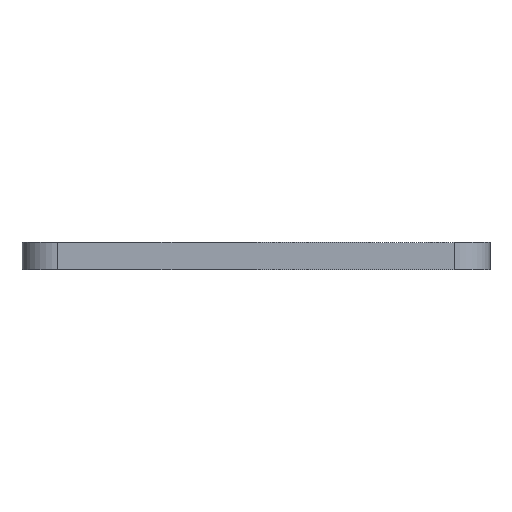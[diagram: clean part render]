
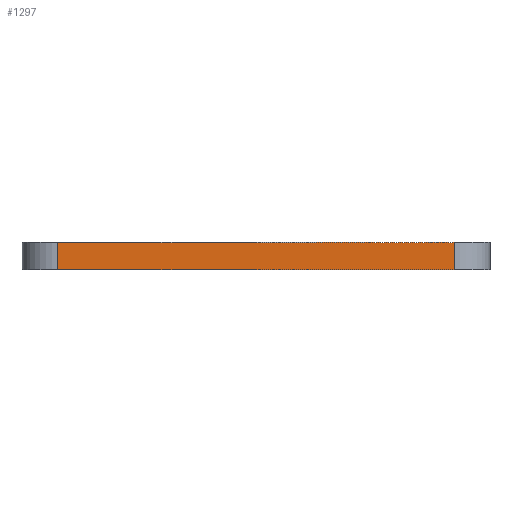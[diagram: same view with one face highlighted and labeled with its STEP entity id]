
A CAD part, left-side view. The second image highlights one B-rep face of the part: STEP entity #1297.
In plain terms, the highlighted planar face has unit normal (-1, 0, 0).
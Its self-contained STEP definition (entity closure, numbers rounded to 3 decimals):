
#44 = PLANE('',#45);
#45 = AXIS2_PLACEMENT_3D('',#46,#47,#48);
#46 = CARTESIAN_POINT('',(29.,-26.,-2.));
#47 = DIRECTION('',(0.,0.,1.));
#48 = DIRECTION('',(1.,0.,0.));
#100 = PLANE('',#101);
#101 = AXIS2_PLACEMENT_3D('',#102,#103,#104);
#102 = CARTESIAN_POINT('',(29.,-26.,-5.));
#103 = DIRECTION('',(0.,0.,1.));
#104 = DIRECTION('',(1.,0.,0.));
#199 = VERTEX_POINT('',#200);
#200 = CARTESIAN_POINT('',(-29.,-22.,-2.));
#215 = CYLINDRICAL_SURFACE('',#216,4.);
#216 = AXIS2_PLACEMENT_3D('',#217,#218,#219);
#217 = CARTESIAN_POINT('',(-25.,-22.,-5.));
#218 = DIRECTION('',(-0.,-0.,1.));
#219 = DIRECTION('',(-1.,-0.,-0.));
#227 = EDGE_CURVE('',#199,#228,#230,.T.);
#228 = VERTEX_POINT('',#229);
#229 = CARTESIAN_POINT('',(-29.,22.,-2.));
#230 = SURFACE_CURVE('',#231,(#235,#242),.PCURVE_S1.);
#231 = LINE('',#232,#233);
#232 = CARTESIAN_POINT('',(-29.,-26.,-2.));
#233 = VECTOR('',#234,1.);
#234 = DIRECTION('',(-0.,1.,0.));
#235 = PCURVE('',#44,#236);
#236 = DEFINITIONAL_REPRESENTATION('',(#237),#241);
#237 = LINE('',#238,#239);
#238 = CARTESIAN_POINT('',(-58.,0.));
#239 = VECTOR('',#240,1.);
#240 = DIRECTION('',(-0.,1.));
#241 = ( GEOMETRIC_REPRESENTATION_CONTEXT(2) 
PARAMETRIC_REPRESENTATION_CONTEXT() REPRESENTATION_CONTEXT('2D SPACE',''
  ) );
#242 = PCURVE('',#243,#248);
#243 = PLANE('',#244);
#244 = AXIS2_PLACEMENT_3D('',#245,#246,#247);
#245 = CARTESIAN_POINT('',(-29.,-26.,-5.));
#246 = DIRECTION('',(-1.,-0.,0.));
#247 = DIRECTION('',(0.,0.,-1.));
#248 = DEFINITIONAL_REPRESENTATION('',(#249),#253);
#249 = LINE('',#250,#251);
#250 = CARTESIAN_POINT('',(-3.,-0.));
#251 = VECTOR('',#252,1.);
#252 = DIRECTION('',(-0.,-1.));
#253 = ( GEOMETRIC_REPRESENTATION_CONTEXT(2) 
PARAMETRIC_REPRESENTATION_CONTEXT() REPRESENTATION_CONTEXT('2D SPACE',''
  ) );
#276 = CYLINDRICAL_SURFACE('',#277,4.);
#277 = AXIS2_PLACEMENT_3D('',#278,#279,#280);
#278 = CARTESIAN_POINT('',(-25.,22.,-5.));
#279 = DIRECTION('',(-0.,-0.,1.));
#280 = DIRECTION('',(-1.,-0.,-0.));
#810 = VERTEX_POINT('',#811);
#811 = CARTESIAN_POINT('',(-29.,-22.,-5.));
#833 = EDGE_CURVE('',#810,#834,#836,.T.);
#834 = VERTEX_POINT('',#835);
#835 = CARTESIAN_POINT('',(-29.,22.,-5.));
#836 = SURFACE_CURVE('',#837,(#841,#848),.PCURVE_S1.);
#837 = LINE('',#838,#839);
#838 = CARTESIAN_POINT('',(-29.,-26.,-5.));
#839 = VECTOR('',#840,1.);
#840 = DIRECTION('',(-0.,1.,0.));
#841 = PCURVE('',#100,#842);
#842 = DEFINITIONAL_REPRESENTATION('',(#843),#847);
#843 = LINE('',#844,#845);
#844 = CARTESIAN_POINT('',(-58.,0.));
#845 = VECTOR('',#846,1.);
#846 = DIRECTION('',(-0.,1.));
#847 = ( GEOMETRIC_REPRESENTATION_CONTEXT(2) 
PARAMETRIC_REPRESENTATION_CONTEXT() REPRESENTATION_CONTEXT('2D SPACE',''
  ) );
#848 = PCURVE('',#243,#849);
#849 = DEFINITIONAL_REPRESENTATION('',(#850),#854);
#850 = LINE('',#851,#852);
#851 = CARTESIAN_POINT('',(-0.,-0.));
#852 = VECTOR('',#853,1.);
#853 = DIRECTION('',(-0.,-1.));
#854 = ( GEOMETRIC_REPRESENTATION_CONTEXT(2) 
PARAMETRIC_REPRESENTATION_CONTEXT() REPRESENTATION_CONTEXT('2D SPACE',''
  ) );
#1250 = EDGE_CURVE('',#810,#199,#1251,.T.);
#1251 = SURFACE_CURVE('',#1252,(#1256,#1263),.PCURVE_S1.);
#1252 = LINE('',#1253,#1254);
#1253 = CARTESIAN_POINT('',(-29.,-22.,-5.));
#1254 = VECTOR('',#1255,1.);
#1255 = DIRECTION('',(-0.,-0.,1.));
#1256 = PCURVE('',#215,#1257);
#1257 = DEFINITIONAL_REPRESENTATION('',(#1258),#1262);
#1258 = LINE('',#1259,#1260);
#1259 = CARTESIAN_POINT('',(0.,0.));
#1260 = VECTOR('',#1261,1.);
#1261 = DIRECTION('',(0.,1.));
#1262 = ( GEOMETRIC_REPRESENTATION_CONTEXT(2) 
PARAMETRIC_REPRESENTATION_CONTEXT() REPRESENTATION_CONTEXT('2D SPACE',''
  ) );
#1263 = PCURVE('',#243,#1264);
#1264 = DEFINITIONAL_REPRESENTATION('',(#1265),#1269);
#1265 = LINE('',#1266,#1267);
#1266 = CARTESIAN_POINT('',(-0.,-4.));
#1267 = VECTOR('',#1268,1.);
#1268 = DIRECTION('',(-1.,-0.));
#1269 = ( GEOMETRIC_REPRESENTATION_CONTEXT(2) 
PARAMETRIC_REPRESENTATION_CONTEXT() REPRESENTATION_CONTEXT('2D SPACE',''
  ) );
#1277 = EDGE_CURVE('',#834,#228,#1278,.T.);
#1278 = SURFACE_CURVE('',#1279,(#1283,#1290),.PCURVE_S1.);
#1279 = LINE('',#1280,#1281);
#1280 = CARTESIAN_POINT('',(-29.,22.,-5.));
#1281 = VECTOR('',#1282,1.);
#1282 = DIRECTION('',(-0.,-0.,1.));
#1283 = PCURVE('',#276,#1284);
#1284 = DEFINITIONAL_REPRESENTATION('',(#1285),#1289);
#1285 = LINE('',#1286,#1287);
#1286 = CARTESIAN_POINT('',(-0.,0.));
#1287 = VECTOR('',#1288,1.);
#1288 = DIRECTION('',(-0.,1.));
#1289 = ( GEOMETRIC_REPRESENTATION_CONTEXT(2) 
PARAMETRIC_REPRESENTATION_CONTEXT() REPRESENTATION_CONTEXT('2D SPACE',''
  ) );
#1290 = PCURVE('',#243,#1291);
#1291 = DEFINITIONAL_REPRESENTATION('',(#1292),#1296);
#1292 = LINE('',#1293,#1294);
#1293 = CARTESIAN_POINT('',(-0.,-48.));
#1294 = VECTOR('',#1295,1.);
#1295 = DIRECTION('',(-1.,-0.));
#1296 = ( GEOMETRIC_REPRESENTATION_CONTEXT(2) 
PARAMETRIC_REPRESENTATION_CONTEXT() REPRESENTATION_CONTEXT('2D SPACE',''
  ) );
#1297 = ADVANCED_FACE('',(#1298),#243,.T.);
#1298 = FACE_BOUND('',#1299,.F.);
#1299 = EDGE_LOOP('',(#1300,#1301,#1302,#1303));
#1300 = ORIENTED_EDGE('',*,*,#227,.F.);
#1301 = ORIENTED_EDGE('',*,*,#1250,.F.);
#1302 = ORIENTED_EDGE('',*,*,#833,.T.);
#1303 = ORIENTED_EDGE('',*,*,#1277,.T.);
